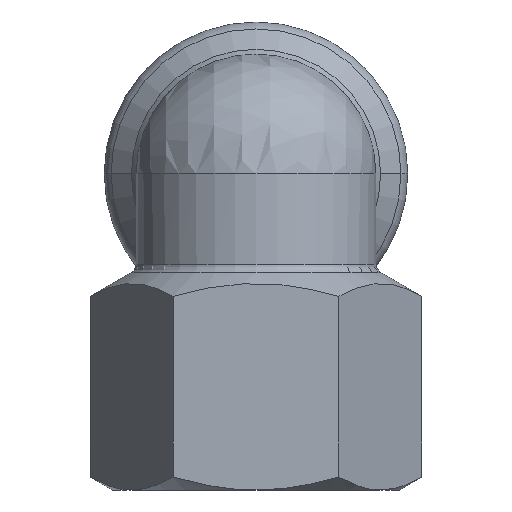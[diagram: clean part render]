
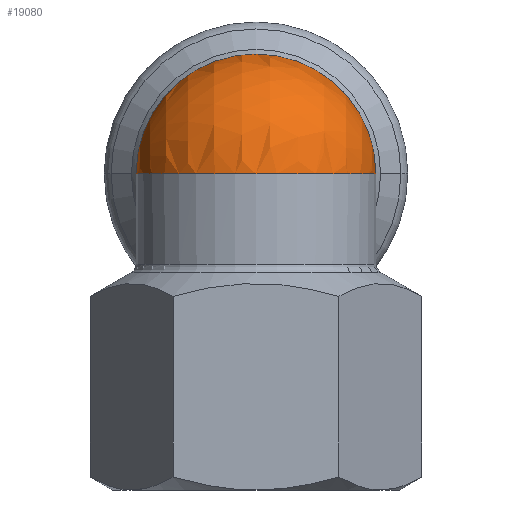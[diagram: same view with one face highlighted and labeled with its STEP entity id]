
A CAD part, left-side view. The second image highlights one B-rep face of the part: STEP entity #19080.
In plain terms, the highlighted spherical face has radius 12.5 mm.
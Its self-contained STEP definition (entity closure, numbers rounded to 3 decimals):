
#3060=CARTESIAN_POINT('',(38.369,-23.609,33.));
#3070=VERTEX_POINT('',#3060);
#3100=CARTESIAN_POINT('',(38.369,-36.109,33.));
#3110=DIRECTION('',(0.,0.,-1.));
#3120=DIRECTION('',(1.,-0.,0.));
#3130=AXIS2_PLACEMENT_3D('',#3100,#3110,#3120);
#3140=CIRCLE('',#3130,12.5);
#3150=CARTESIAN_POINT('',(38.369,-48.609,33.));
#3160=VERTEX_POINT('',#3150);
#3170=EDGE_CURVE('',#3160,#3070,#3140,.T.);
#18740=CARTESIAN_POINT('',(38.369,-36.109,33.));
#18750=DIRECTION('',(1.,0.,-0.));
#18760=DIRECTION('',(0.,1.,0.));
#18770=AXIS2_PLACEMENT_3D('',#18740,#18750,#18760);
#18780=CIRCLE('',#18770,12.5);
#18790=EDGE_CURVE('',#3070,#3160,#18780,.T.);
#18990=CARTESIAN_POINT('',(38.369,-36.109,33.));
#19000=DIRECTION('',(0.,1.,0.));
#19010=DIRECTION('',(1.,0.,0.));
#19020=AXIS2_PLACEMENT_3D('',#18990,#19000,#19010);
#19030=SPHERICAL_SURFACE('',#19020,12.5);
#19040=ORIENTED_EDGE('',*,*,#18790,.F.);
#19050=ORIENTED_EDGE('',*,*,#3170,.F.);
#19060=EDGE_LOOP('',(#19050,#19040));
#19070=FACE_OUTER_BOUND('',#19060,.T.);
#19080=ADVANCED_FACE('',(#19070),#19030,.T.);
